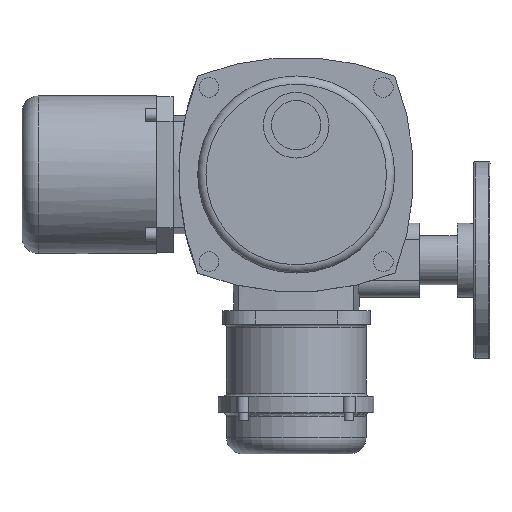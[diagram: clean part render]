
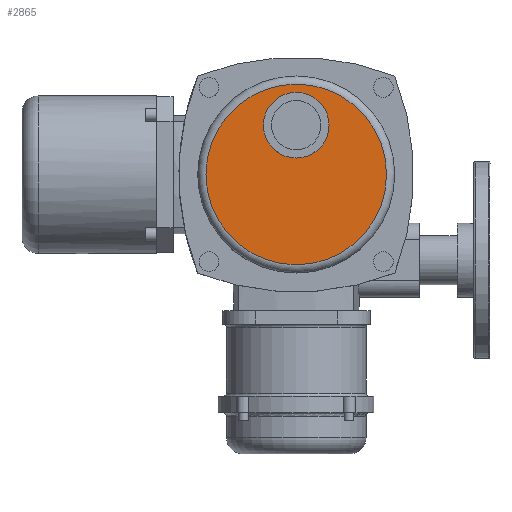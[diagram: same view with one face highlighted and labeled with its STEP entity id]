
A CAD part, top view. The second image highlights one B-rep face of the part: STEP entity #2865.
In plain terms, the highlighted planar face has unit normal (0, 0, 1).
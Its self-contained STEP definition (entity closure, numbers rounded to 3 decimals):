
#2865=ADVANCED_FACE('',(#5525,#5527),#5529,.T.);
#5525=FACE_BOUND('',#5526,.T.);
#5526=EDGE_LOOP('',(#7109));
#5527=FACE_BOUND('',#5528,.T.);
#5528=EDGE_LOOP('',(#7110));
#5529=PLANE('',#5530);
#5530=AXIS2_PLACEMENT_3D('',#5531,#5532,#5533);
#5531=CARTESIAN_POINT('',(5.,-8.,302.));
#5532=DIRECTION('',(0.,0.,1.));
#5533=DIRECTION('',(1.,0.,0.));
#7109=ORIENTED_EDGE('',*,*,#7828,.T.);
#7110=ORIENTED_EDGE('',*,*,#7889,.F.);
#7828=EDGE_CURVE('',#9008,#9008,#9009,.T.);
#7889=EDGE_CURVE('',#9100,#9100,#9101,.T.);
#9008=VERTEX_POINT('',#14101);
#9009=CIRCLE('',#14102,55.);
#9100=VERTEX_POINT('',#14358);
#9101=CIRCLE('',#14359,20.);
#14101=CARTESIAN_POINT('',(60.,-8.,302.));
#14102=AXIS2_PLACEMENT_3D('',#14103,#14104,#14105);
#14103=CARTESIAN_POINT('',(5.,-8.,302.));
#14104=DIRECTION('',(0.,0.,1.));
#14105=DIRECTION('',(1.,0.,0.));
#14358=CARTESIAN_POINT('',(25.,22.,302.));
#14359=AXIS2_PLACEMENT_3D('',#14360,#14361,#14362);
#14360=CARTESIAN_POINT('',(5.,22.,302.));
#14361=DIRECTION('',(0.,0.,1.));
#14362=DIRECTION('',(1.,0.,0.));
